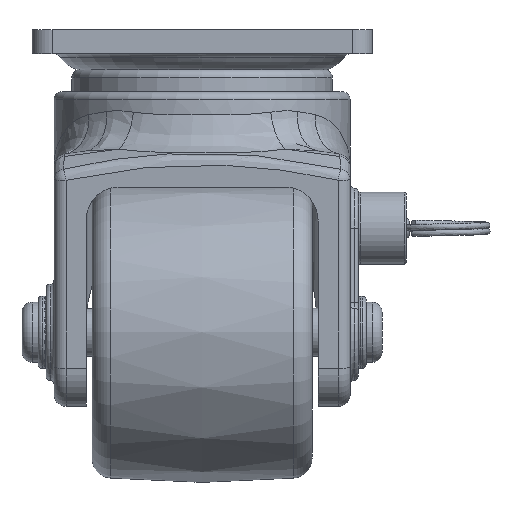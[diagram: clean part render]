
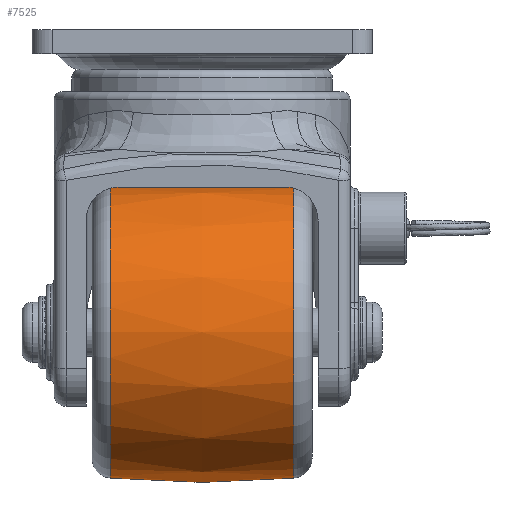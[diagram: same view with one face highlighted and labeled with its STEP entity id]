
A CAD part, left-side view. The second image highlights one B-rep face of the part: STEP entity #7525.
In plain terms, the highlighted free-form (B-spline) face has degree [2, 2] with [3, 9] control points.
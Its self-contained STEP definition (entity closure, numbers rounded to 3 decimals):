
#16=(
BOUNDED_CURVE()
B_SPLINE_CURVE(2,(#20473,#20474,#20475),.UNSPECIFIED.,.F.,.F.)
B_SPLINE_CURVE_WITH_KNOTS((3,3),(-0.092,0.092),
 .UNSPECIFIED.)
CURVE()
GEOMETRIC_REPRESENTATION_ITEM()
RATIONAL_B_SPLINE_CURVE((1.,0.996,1.))
REPRESENTATION_ITEM('')
);
#103=(
BOUNDED_SURFACE()
B_SPLINE_SURFACE(2,2,((#20445,#20446,#20447,#20448,#20449,#20450,#20451,
#20452,#20453),(#20454,#20455,#20456,#20457,#20458,#20459,#20460,#20461,
#20462),(#20463,#20464,#20465,#20466,#20467,#20468,#20469,#20470,#20471)),
 .UNSPECIFIED.,.F.,.T.,.F.)
B_SPLINE_SURFACE_WITH_KNOTS((3,3),(3,2,2,2,3),(-0.092,0.092),
(-3.142,-1.571,0.,1.571,3.142),
 .UNSPECIFIED.)
GEOMETRIC_REPRESENTATION_ITEM()
RATIONAL_B_SPLINE_SURFACE(((1.,0.707,1.,0.707,1.,
0.707,1.,0.707,1.),(0.996,0.704,
0.996,0.704,0.996,0.704,
0.996,0.704,0.996),(1.,0.707,
1.,0.707,1.,0.707,1.,0.707,1.)))
REPRESENTATION_ITEM('')
SURFACE()
);
#490=CIRCLE('',#8141,36.444);
#491=CIRCLE('',#8142,36.444);
#492=CIRCLE('',#8143,36.444);
#493=CIRCLE('',#8144,36.444);
#1493=FACE_OUTER_BOUND('',#2083,.T.);
#2083=EDGE_LOOP('',(#6319,#6320,#6321,#6322,#6323,#6324));
#3541=VERTEX_POINT('',#20441);
#3542=VERTEX_POINT('',#20442);
#3543=VERTEX_POINT('',#20472);
#3544=VERTEX_POINT('',#20476);
#4503=EDGE_CURVE('',#3541,#3542,#490,.T.);
#4504=EDGE_CURVE('',#3542,#3541,#491,.T.);
#4505=EDGE_CURVE('',#3542,#3543,#16,.T.);
#4506=EDGE_CURVE('',#3544,#3543,#492,.T.);
#4507=EDGE_CURVE('',#3543,#3544,#493,.T.);
#6319=ORIENTED_EDGE('',*,*,#4503,.T.);
#6320=ORIENTED_EDGE('',*,*,#4505,.T.);
#6321=ORIENTED_EDGE('',*,*,#4506,.F.);
#6322=ORIENTED_EDGE('',*,*,#4507,.F.);
#6323=ORIENTED_EDGE('',*,*,#4505,.F.);
#6324=ORIENTED_EDGE('',*,*,#4504,.T.);
#7525=ADVANCED_FACE('',(#1493),#103,.F.);
#8141=AXIS2_PLACEMENT_3D('',#20443,#9721,#9722);
#8142=AXIS2_PLACEMENT_3D('',#20444,#9723,#9724);
#8143=AXIS2_PLACEMENT_3D('',#20477,#9725,#9726);
#8144=AXIS2_PLACEMENT_3D('',#20478,#9727,#9728);
#9721=DIRECTION('center_axis',(0.,-1.,0.));
#9722=DIRECTION('ref_axis',(1.,0.,0.));
#9723=DIRECTION('center_axis',(0.,-1.,0.));
#9724=DIRECTION('ref_axis',(1.,0.,0.));
#9725=DIRECTION('center_axis',(0.,-1.,0.));
#9726=DIRECTION('ref_axis',(1.,0.,0.));
#9727=DIRECTION('center_axis',(0.,-1.,0.));
#9728=DIRECTION('ref_axis',(1.,0.,0.));
#20441=CARTESIAN_POINT('',(107.908,142.298,-20.8));
#20442=CARTESIAN_POINT('',(71.464,142.298,-57.244));
#20443=CARTESIAN_POINT('Origin',(71.464,142.298,-20.8));
#20444=CARTESIAN_POINT('Origin',(71.464,142.298,-20.8));
#20445=CARTESIAN_POINT('Ctrl Pts',(71.464,96.379,-57.244));
#20446=CARTESIAN_POINT('Ctrl Pts',(35.021,96.379,-57.244));
#20447=CARTESIAN_POINT('Ctrl Pts',(35.021,96.379,-20.8));
#20448=CARTESIAN_POINT('Ctrl Pts',(35.021,96.379,15.644));
#20449=CARTESIAN_POINT('Ctrl Pts',(71.464,96.379,15.644));
#20450=CARTESIAN_POINT('Ctrl Pts',(107.908,96.379,15.644));
#20451=CARTESIAN_POINT('Ctrl Pts',(107.908,96.379,-20.8));
#20452=CARTESIAN_POINT('Ctrl Pts',(107.908,96.379,-57.244));
#20453=CARTESIAN_POINT('Ctrl Pts',(71.464,96.379,-57.244));
#20454=CARTESIAN_POINT('Ctrl Pts',(71.464,119.339,-59.361));
#20455=CARTESIAN_POINT('Ctrl Pts',(32.903,119.339,-59.361));
#20456=CARTESIAN_POINT('Ctrl Pts',(32.903,119.339,-20.8));
#20457=CARTESIAN_POINT('Ctrl Pts',(32.903,119.339,17.761));
#20458=CARTESIAN_POINT('Ctrl Pts',(71.464,119.339,17.761));
#20459=CARTESIAN_POINT('Ctrl Pts',(110.025,119.339,17.761));
#20460=CARTESIAN_POINT('Ctrl Pts',(110.025,119.339,-20.8));
#20461=CARTESIAN_POINT('Ctrl Pts',(110.025,119.339,-59.361));
#20462=CARTESIAN_POINT('Ctrl Pts',(71.464,119.339,-59.361));
#20463=CARTESIAN_POINT('Ctrl Pts',(71.464,142.298,-57.244));
#20464=CARTESIAN_POINT('Ctrl Pts',(35.021,142.298,-57.244));
#20465=CARTESIAN_POINT('Ctrl Pts',(35.021,142.298,-20.8));
#20466=CARTESIAN_POINT('Ctrl Pts',(35.021,142.298,15.644));
#20467=CARTESIAN_POINT('Ctrl Pts',(71.464,142.298,15.644));
#20468=CARTESIAN_POINT('Ctrl Pts',(107.908,142.298,15.644));
#20469=CARTESIAN_POINT('Ctrl Pts',(107.908,142.298,-20.8));
#20470=CARTESIAN_POINT('Ctrl Pts',(107.908,142.298,-57.244));
#20471=CARTESIAN_POINT('Ctrl Pts',(71.464,142.298,-57.244));
#20472=CARTESIAN_POINT('',(71.464,96.379,-57.244));
#20473=CARTESIAN_POINT('Ctrl Pts',(71.464,142.298,-57.244));
#20474=CARTESIAN_POINT('Ctrl Pts',(71.464,119.339,-59.361));
#20475=CARTESIAN_POINT('Ctrl Pts',(71.464,96.379,-57.244));
#20476=CARTESIAN_POINT('',(107.908,96.379,-20.8));
#20477=CARTESIAN_POINT('Origin',(71.464,96.379,-20.8));
#20478=CARTESIAN_POINT('Origin',(71.464,96.379,-20.8));
